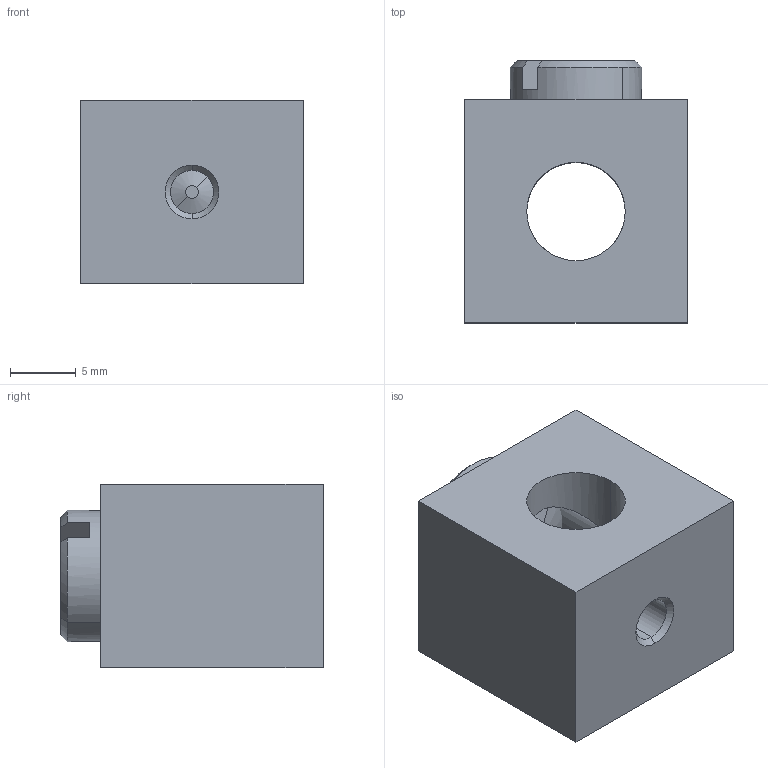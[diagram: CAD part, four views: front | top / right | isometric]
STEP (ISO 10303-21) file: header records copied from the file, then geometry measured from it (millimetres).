
FILE_DESCRIPTION (( 'STEP AP203' ), '1' );
FILE_NAME ('Êîëîäêà ÃÆÈÊ.687229.008.STEP', '2017-03-14T05:44:52', ( 'admin' ), ( '' ), 'SwSTEP 2.0', 'SolidWorks 2012', '' );
FILE_SCHEMA (( 'CONFIG_CONTROL_DESIGN' ));
Length unit declared in the file: millimetre
Products named in the file (3): Êîëîäêà ÃÆÈÊ.687229.008; Êîëîäêà ÃÆÈÊ.731173.008_ƒ†ˆŠ.731173.008; 妈眚 闷仁.758211.007_儐垔.758211.007
Assembly tree (2 placements, depth 2):
  Êîëîäêà ÃÆÈÊ.687229.008
    Êîëîäêà ÃÆÈÊ.731173.008_ƒ†ˆŠ.731173.008
    妈眚 闷仁.758211.007_儐垔.758211.007
Bounding box: 17 x 20 x 14 mm (x, y, z)
Volume: 3437.2 mm3; surface area: 2230.9 mm2
Topology: 2 solids, 2 shells, 32 faces, 80 edges, 51 vertices
Faces by surface type: plane 13, cylinder 10, cone 9
Entity records: 1422 total; most frequent: CARTESIAN_POINT 340, DIRECTION 171, ORIENTED_EDGE 160, EDGE_CURVE 80, AXIS2_PLACEMENT_3D 66, VERTEX_POINT 51, VECTOR 39, LINE 39
